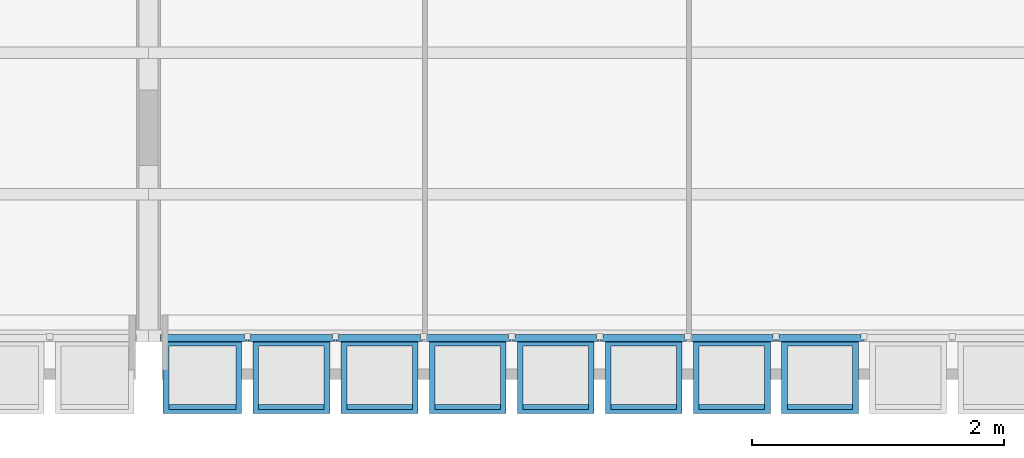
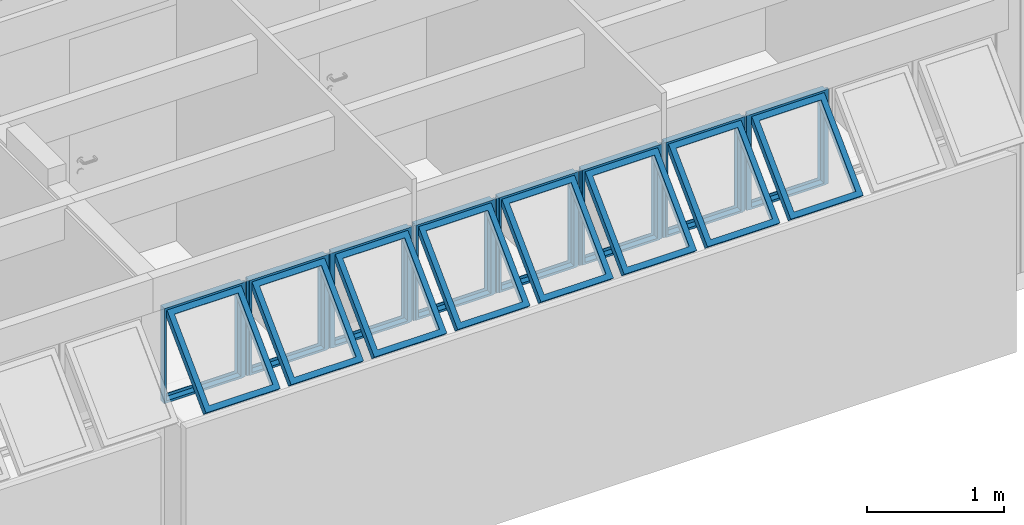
# One storey, part 27 of 37: 8 building element parts, 9 elements without a shape of their own.
"""IFC2X3 building model written with IfcOpenShell, lengths in millimetres."""

from ifc_helpers import new_model, entity, si_unit, converted_unit, derived_unit, money_unit, direction, frame, origin_with_axes, place, context, subcontext, project, spatial, faceted_brep, source, transform, mapped, material, type_object, element, aggregate, save


model = new_model("IFC2X3")

# Units and contexts
model_context = context("Model", 3, precision=0.01, world=origin_with_axes(), true_north=direction((0.0, 1.0)))
body_context = subcontext(model_context, "Body", "Model", "MODEL_VIEW")
ifc_project = project(units=[si_unit("LENGTHUNIT", "METRE", prefix="MILLI"), si_unit("AREAUNIT", "SQUARE_METRE"), si_unit("VOLUMEUNIT", "CUBIC_METRE"), converted_unit("PLANEANGLEUNIT", "DEGREE", entity("IfcPlaneAngleMeasure", 0.0174532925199), si_unit("PLANEANGLEUNIT", "RADIAN"), dimensions=[0, 0, 0, 0, 0, 0, 0]), money_unit("USD"), converted_unit("TIMEUNIT", "Year", entity("IfcTimeMeasure", 31556926.0), si_unit("TIMEUNIT", "SECOND"), dimensions=[0, 0, 1, 0, 0, 0, 0]), si_unit("MASSUNIT", "GRAM", prefix="KILO"), si_unit("THERMODYNAMICTEMPERATUREUNIT", "DEGREE_CELSIUS"), si_unit("LUMINOUSINTENSITYUNIT", "LUMEN"), si_unit("ENERGYUNIT", "JOULE", prefix="MEGA"), derived_unit("THERMALCONDUCTANCEUNIT", [(si_unit("POWERUNIT", "WATT"), 1), (si_unit("LENGTHUNIT", "METRE"), -1), (si_unit("THERMODYNAMICTEMPERATUREUNIT", "KELVIN"), -1)]), derived_unit("SPECIFICHEATCAPACITYUNIT", [(si_unit("ENERGYUNIT", "JOULE"), 1), (si_unit("MASSUNIT", "GRAM", prefix="KILO"), -1), (si_unit("THERMODYNAMICTEMPERATUREUNIT", "KELVIN"), -1)]), derived_unit("MASSDENSITYUNIT", [(si_unit("MASSUNIT", "GRAM", prefix="KILO"), 1), (si_unit("VOLUMEUNIT", "CUBIC_METRE"), -1)])], contexts=[model_context])

# Site, building, storey
site_placement = place(None, origin_with_axes())
site = spatial("IfcSite", under=ifc_project, at=site_placement, Name="Local", CompositionType="ELEMENT")
building_placement = place(site_placement, origin_with_axes())
building = spatial("IfcBuilding", under=site, at=building_placement, Name="Construção", CompositionType="ELEMENT")
storey_placement = place(building_placement, origin_with_axes())
storey = spatial("IfcBuildingStorey", under=building, at=storey_placement, Name="Primeiro Pavimento", CompositionType="ELEMENT", Elevation=0.0)

# Window, plates, building element parts
window_style = type_object("IfcWindowStyle", Name="Tipo de Parede Cortina", ConstructionType="NOTDEFINED", OperationType="NOTDEFINED", ParameterTakesPrecedence=False, Sizeable=False)
window_placement = place(storey_placement, frame((8520.0, 315.020977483, 1355.02054151), z_axis=(0.0, 0.0, 1.0), x_axis=(1.0, 0.0, 0.0)))
window = element("IfcWindow", 1, at=window_placement, inside=storey, type_object=window_style, Name="APTO2-JANELA-001")
plate_type_1 = type_object("IfcPlateType", Name="Painel Principal 690 x 845 x 20", PredefinedType="CURTAIN_PANEL")
plate_1_placement = place(window_placement, frame((0.0, 0.0, 422.499945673), z_axis=(0.0, 0.0, 1.0), x_axis=(1.0, 0.0, 0.0)))
plate_1 = element("IfcPlate", 2, at=plate_1_placement, type_object=plate_type_1, Name="APTO2-Painel-Prin-030")
ifc_material = material(Name="Alumínio")
shared_shape_1 = source(origin_with_axes(), body_context, "Body", "Brep", [
    faceted_brep([(-25.0000036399, 0.0, -40.0), (-25.0000036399, 0.0, -35.0), (-674.999997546, 0.0, -35.0), (-674.999997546, 0.0, -40.0), (-70.0000036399, 45.0, -40.0), (-70.0000036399, 45.0, -35.0), (-629.999997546, 45.0, -35.0), (-629.999997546, 45.0, -40.0)], [[[0, 1, 2, 3]], [[4, 5, 1, 0]], [[1, 5, 6, 2]], [[3, 2, 6, 7]], [[0, 3, 7, 4]], [[7, 6, 5, 4]]]),
    faceted_brep([(-674.999997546, 0.0, -40.0), (-674.999997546, 0.0, -35.0), (-674.999997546, 844.999891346, -35.0), (-674.999997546, 844.999891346, -40.0), (-629.999997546, 45.0, -40.0), (-629.999997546, 45.0, -35.0), (-629.999997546, 799.999891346, -35.0), (-629.999997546, 799.999891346, -40.0)], [[[0, 1, 2, 3]], [[4, 5, 1, 0]], [[1, 5, 6, 2]], [[3, 2, 6, 7]], [[0, 3, 7, 4]], [[7, 6, 5, 4]]]),
    faceted_brep([(-25.0000036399, 844.999891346, -40.0), (-25.0000036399, 844.999891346, -35.0), (-70.0000036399, 799.999891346, -35.0), (-70.0000036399, 799.999891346, -40.0), (-674.999997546, 844.999891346, -40.0), (-674.999997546, 844.999891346, -35.0), (-629.999997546, 799.999891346, -35.0), (-629.999997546, 799.999891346, -40.0)], [[[0, 1, 2, 3]], [[4, 5, 1, 0]], [[1, 5, 6, 2]], [[3, 2, 6, 7]], [[0, 3, 7, 4]], [[7, 6, 5, 4]]]),
    faceted_brep([(-25.0000036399, 0.0, -40.0), (-25.0000036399, 0.0, -35.0), (-70.0000036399, 45.0, -35.0), (-70.0000036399, 45.0, -40.0), (-25.0000036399, 844.999891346, -40.0), (-25.0000036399, 844.999891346, -35.0), (-70.0000036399, 799.999891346, -35.0), (-70.0000036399, 799.999891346, -40.0)], [[[0, 1, 2, 3]], [[4, 5, 1, 0]], [[1, 5, 6, 2]], [[3, 2, 6, 7]], [[0, 3, 7, 4]], [[7, 6, 5, 4]]]),
    faceted_brep([(-25.0000036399, 0.0, -35.0), (-25.0000036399, 0.0, 15.0), (-674.999997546, 0.0, 15.0), (-674.999997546, 0.0, -35.0), (-45.0000036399, 20.0, -35.0), (-45.0000036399, 20.0, 15.0), (-654.999997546, 20.0, 15.0), (-654.999997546, 20.0, -35.0)], [[[0, 1, 2, 3]], [[4, 5, 1, 0]], [[1, 5, 6, 2]], [[3, 2, 6, 7]], [[0, 3, 7, 4]], [[7, 6, 5, 4]]]),
    faceted_brep([(-674.999997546, 0.0, -35.0), (-674.999997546, 0.0, 15.0), (-674.999997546, 844.999891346, 15.0), (-674.999997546, 844.999891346, -35.0), (-654.999997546, 20.0, -35.0), (-654.999997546, 20.0, 15.0), (-654.999997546, 824.999891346, 15.0), (-654.999997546, 824.999891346, -35.0)], [[[0, 1, 2, 3]], [[4, 5, 1, 0]], [[1, 5, 6, 2]], [[3, 2, 6, 7]], [[0, 3, 7, 4]], [[7, 6, 5, 4]]]),
    faceted_brep([(-25.0000036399, 844.999891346, -35.0), (-25.0000036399, 844.999891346, 15.0), (-45.0000036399, 824.999891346, 15.0), (-45.0000036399, 824.999891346, -35.0), (-674.999997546, 844.999891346, -35.0), (-674.999997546, 844.999891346, 15.0), (-654.999997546, 824.999891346, 15.0), (-654.999997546, 824.999891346, -35.0)], [[[0, 1, 2, 3]], [[4, 5, 1, 0]], [[1, 5, 6, 2]], [[3, 2, 6, 7]], [[0, 3, 7, 4]], [[7, 6, 5, 4]]]),
    faceted_brep([(-25.0000036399, 0.0, -35.0), (-25.0000036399, 0.0, 15.0), (-45.0000036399, 20.0, 15.0), (-45.0000036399, 20.0, -35.0), (-25.0000036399, 844.999891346, -35.0), (-25.0000036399, 844.999891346, 15.0), (-45.0000036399, 824.999891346, 15.0), (-45.0000036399, 824.999891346, -35.0)], [[[0, 1, 2, 3]], [[4, 5, 1, 0]], [[1, 5, 6, 2]], [[3, 2, 6, 7]], [[0, 3, 7, 4]], [[7, 6, 5, 4]]]),
    faceted_brep([(-694.999995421, 0.0, -10.0), (-694.999995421, 0.0, 10.0), (-694.999995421, 844.999891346, 10.0), (-694.999995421, 844.999891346, -10.0), (-674.999997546, 0.0, -10.0), (-674.999997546, 0.0, 10.0), (-674.999997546, 844.999891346, 10.0), (-674.999997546, 844.999891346, -10.0)], [[[0, 1, 2, 3]], [[4, 5, 1, 0]], [[1, 5, 6, 2]], [[3, 2, 6, 7]], [[0, 3, 7, 4]], [[7, 6, 5, 4]]]),
    faceted_brep([(-5.00000576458, 844.999891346, -10.0), (-5.00000576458, 844.999891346, 10.0), (-5.00000576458, 0.0, 10.0), (-5.00000576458, 0.0, -10.0), (-25.0000036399, 844.999891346, -10.0), (-25.0000036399, 844.999891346, 10.0), (-25.0000036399, 0.0, 10.0), (-25.0000036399, 0.0, -10.0)], [[[0, 1, 2, 3]], [[4, 5, 1, 0]], [[1, 5, 6, 2]], [[3, 2, 6, 7]], [[0, 3, 7, 4]], [[7, 6, 5, 4]]]),
    faceted_brep([(-90.0000036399, 252.243475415, 517.045737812), (-90.0000036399, 291.13434838, 555.936610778), (-90.0000036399, 796.715620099, 50.3553390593), (-90.0000036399, 757.824747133, 11.4644660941), (-45.0000036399, 220.423670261, 548.865542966), (-45.0000036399, 259.314543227, 587.756415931), (-45.0000036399, 828.535425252, 18.5355339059), (-45.0000036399, 789.644552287, -20.3553390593)], [[[0, 1, 2, 3]], [[4, 5, 1, 0]], [[1, 5, 6, 2]], [[3, 2, 6, 7]], [[0, 3, 7, 4]], [[7, 6, 5, 4]]]),
    faceted_brep([(-654.999997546, 220.423670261, 548.865542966), (-654.999997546, 259.314543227, 587.756415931), (-654.999997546, 828.535425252, 18.5355339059), (-654.999997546, 789.644552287, -20.3553390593), (-609.999997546, 252.243475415, 517.045737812), (-609.999997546, 291.13434838, 555.936610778), (-609.999997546, 796.715620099, 50.3553390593), (-609.999997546, 757.824747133, 11.4644660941)], [[[0, 1, 2, 3]], [[4, 5, 1, 0]], [[1, 5, 6, 2]], [[3, 2, 6, 7]], [[0, 3, 7, 4]], [[7, 6, 5, 4]]]),
    faceted_brep([(-654.999997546, 220.423670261, 548.865542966), (-654.999997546, 259.314543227, 587.756415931), (-609.999997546, 291.13434838, 555.936610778), (-609.999997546, 252.243475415, 517.045737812), (-45.0000036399, 220.423670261, 548.865542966), (-45.0000036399, 259.314543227, 587.756415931), (-90.0000036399, 291.13434838, 555.936610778), (-90.0000036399, 252.243475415, 517.045737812)], [[[0, 1, 2, 3]], [[4, 5, 1, 0]], [[1, 5, 6, 2]], [[3, 2, 6, 7]], [[0, 3, 7, 4]], [[7, 6, 5, 4]]]),
    faceted_brep([(-45.0000036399, 789.644552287, -20.3553390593), (-45.0000036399, 828.535425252, 18.5355339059), (-90.0000036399, 796.715620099, 50.3553390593), (-90.0000036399, 757.824747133, 11.4644660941), (-654.999997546, 789.644552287, -20.3553390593), (-654.999997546, 828.535425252, 18.5355339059), (-609.999997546, 796.715620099, 50.3553390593), (-609.999997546, 757.824747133, 11.4644660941)], [[[0, 1, 2, 3]], [[4, 5, 1, 0]], [[1, 5, 6, 2]], [[3, 2, 6, 7]], [[0, 3, 7, 4]], [[7, 6, 5, 4]]]),
])
building_element_part_1_placement = place(plate_1_placement, origin_with_axes())
building_element_part_1 = element("IfcBuildingElementPart", 3, at=building_element_part_1_placement, material=ifc_material, Name="Alumínio", context=body_context, shape_type="MappedRepresentation", body=[
    mapped(shared_shape_1, transform((350.0, 0.0, -422.499945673), x_axis=(1.0, 0.0, 0.0), y_axis=(0.0, 0.0, 1.0), z_axis=(0.0, -1.0, 0.0))),
])
aggregate(plate_1, [building_element_part_1])
plate_2_placement = place(window_placement, frame((700.0, 0.0, 422.499945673), z_axis=(0.0, 0.0, 1.0), x_axis=(1.0, 0.0, 0.0)))
plate_2 = element("IfcPlate", 4, at=plate_2_placement, type_object=plate_type_1, Name="APTO2-Painel-Prin-020")
building_element_part_2_placement = place(plate_2_placement, origin_with_axes())
building_element_part_2 = element("IfcBuildingElementPart", 5, at=building_element_part_2_placement, material=ifc_material, Name="Alumínio", context=body_context, shape_type="MappedRepresentation", body=[
    mapped(shared_shape_1, transform((350.0, 0.0, -422.499945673), x_axis=(1.0, 0.0, 0.0), y_axis=(0.0, 0.0, 1.0), z_axis=(0.0, -1.0, 0.0))),
])
aggregate(plate_2, [building_element_part_2])
plate_3_placement = place(window_placement, frame((1400.0, 0.0, 422.499945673), z_axis=(0.0, 0.0, 1.0), x_axis=(1.0, 0.0, 0.0)))
plate_3 = element("IfcPlate", 6, at=plate_3_placement, type_object=plate_type_1, Name="APTO2-Painel-Prin-029")
building_element_part_3_placement = place(plate_3_placement, origin_with_axes())
building_element_part_3 = element("IfcBuildingElementPart", 7, at=building_element_part_3_placement, material=ifc_material, Name="Alumínio", context=body_context, shape_type="MappedRepresentation", body=[
    mapped(shared_shape_1, transform((350.0, 0.0, -422.499945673), x_axis=(1.0, 0.0, 0.0), y_axis=(0.0, 0.0, 1.0), z_axis=(0.0, -1.0, 0.0))),
])
aggregate(plate_3, [building_element_part_3])
plate_4_placement = place(window_placement, frame((3500.0, 0.0, 422.499945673), z_axis=(0.0, 0.0, 1.0), x_axis=(1.0, 0.0, 0.0)))
plate_4 = element("IfcPlate", 8, at=plate_4_placement, type_object=plate_type_1, Name="APTO2-Painel-Prin-013")
building_element_part_4_placement = place(plate_4_placement, origin_with_axes())
building_element_part_4 = element("IfcBuildingElementPart", 9, at=building_element_part_4_placement, material=ifc_material, Name="Alumínio", context=body_context, shape_type="MappedRepresentation", body=[
    mapped(shared_shape_1, transform((350.0, 0.0, -422.499945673), x_axis=(1.0, 0.0, 0.0), y_axis=(0.0, 0.0, 1.0), z_axis=(0.0, -1.0, 0.0))),
])
aggregate(plate_4, [building_element_part_4])
plate_5_placement = place(window_placement, frame((2100.0, 0.0, 422.499945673), z_axis=(0.0, 0.0, 1.0), x_axis=(1.0, 0.0, 0.0)))
plate_5 = element("IfcPlate", 10, at=plate_5_placement, type_object=plate_type_1, Name="APTO2-Painel-Prin-025")
shared_shape_2 = source(origin_with_axes(), body_context, "Body", "Brep", [
    faceted_brep([(-25.0000036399, 0.0, -40.0), (-25.0000036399, 0.0, -35.0), (-674.999997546, 0.0, -35.0), (-674.999997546, 0.0, -40.0), (-70.0000036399, 45.0, -40.0), (-70.0000036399, 45.0, -35.0), (-629.999997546, 45.0, -35.0), (-629.999997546, 45.0, -40.0)], [[[0, 1, 2, 3]], [[4, 5, 1, 0]], [[1, 5, 6, 2]], [[3, 2, 6, 7]], [[0, 3, 7, 4]], [[7, 6, 5, 4]]]),
    faceted_brep([(-674.999997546, 0.0, -40.0), (-674.999997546, 0.0, -35.0), (-674.999997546, 844.999891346, -35.0), (-674.999997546, 844.999891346, -40.0), (-629.999997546, 45.0, -40.0), (-629.999997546, 45.0, -35.0), (-629.999997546, 799.999891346, -35.0), (-629.999997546, 799.999891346, -40.0)], [[[0, 1, 2, 3]], [[4, 5, 1, 0]], [[1, 5, 6, 2]], [[3, 2, 6, 7]], [[0, 3, 7, 4]], [[7, 6, 5, 4]]]),
    faceted_brep([(-25.0000036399, 844.999891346, -40.0), (-25.0000036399, 844.999891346, -35.0), (-70.0000036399, 799.999891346, -35.0), (-70.0000036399, 799.999891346, -40.0), (-674.999997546, 844.999891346, -40.0), (-674.999997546, 844.999891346, -35.0), (-629.999997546, 799.999891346, -35.0), (-629.999997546, 799.999891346, -40.0)], [[[0, 1, 2, 3]], [[4, 5, 1, 0]], [[1, 5, 6, 2]], [[3, 2, 6, 7]], [[0, 3, 7, 4]], [[7, 6, 5, 4]]]),
    faceted_brep([(-25.0000036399, 0.0, -40.0), (-25.0000036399, 0.0, -35.0), (-70.0000036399, 45.0, -35.0), (-70.0000036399, 45.0, -40.0), (-25.0000036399, 844.999891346, -40.0), (-25.0000036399, 844.999891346, -35.0), (-70.0000036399, 799.999891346, -35.0), (-70.0000036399, 799.999891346, -40.0)], [[[0, 1, 2, 3]], [[4, 5, 1, 0]], [[1, 5, 6, 2]], [[3, 2, 6, 7]], [[0, 3, 7, 4]], [[7, 6, 5, 4]]]),
    faceted_brep([(-25.0000036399, 0.0, -35.0), (-25.0000036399, 0.0, 15.0), (-674.999997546, 0.0, 15.0), (-674.999997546, 0.0, -35.0), (-45.0000036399, 20.0, -35.0), (-45.0000036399, 20.0, 15.0), (-654.999997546, 20.0, 15.0), (-654.999997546, 20.0, -35.0)], [[[0, 1, 2, 3]], [[4, 5, 1, 0]], [[1, 5, 6, 2]], [[3, 2, 6, 7]], [[0, 3, 7, 4]], [[7, 6, 5, 4]]]),
    faceted_brep([(-674.999997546, 0.0, -35.0), (-674.999997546, 0.0, 15.0), (-674.999997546, 844.999891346, 15.0), (-674.999997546, 844.999891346, -35.0), (-654.999997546, 20.0, -35.0), (-654.999997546, 20.0, 15.0), (-654.999997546, 824.999891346, 15.0), (-654.999997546, 824.999891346, -35.0)], [[[0, 1, 2, 3]], [[4, 5, 1, 0]], [[1, 5, 6, 2]], [[3, 2, 6, 7]], [[0, 3, 7, 4]], [[7, 6, 5, 4]]]),
    faceted_brep([(-25.0000036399, 844.999891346, -35.0), (-25.0000036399, 844.999891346, 15.0), (-45.0000036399, 824.999891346, 15.0), (-45.0000036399, 824.999891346, -35.0), (-674.999997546, 844.999891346, -35.0), (-674.999997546, 844.999891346, 15.0), (-654.999997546, 824.999891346, 15.0), (-654.999997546, 824.999891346, -35.0)], [[[0, 1, 2, 3]], [[4, 5, 1, 0]], [[1, 5, 6, 2]], [[3, 2, 6, 7]], [[0, 3, 7, 4]], [[7, 6, 5, 4]]]),
    faceted_brep([(-25.0000036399, 0.0, -35.0), (-25.0000036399, 0.0, 15.0), (-45.0000036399, 20.0, 15.0), (-45.0000036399, 20.0, -35.0), (-25.0000036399, 844.999891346, -35.0), (-25.0000036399, 844.999891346, 15.0), (-45.0000036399, 824.999891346, 15.0), (-45.0000036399, 824.999891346, -35.0)], [[[0, 1, 2, 3]], [[4, 5, 1, 0]], [[1, 5, 6, 2]], [[3, 2, 6, 7]], [[0, 3, 7, 4]], [[7, 6, 5, 4]]]),
    faceted_brep([(-694.999995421, 0.0, -10.0), (-694.999995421, 0.0, 10.0), (-694.999995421, 844.999891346, 10.0), (-694.999995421, 844.999891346, -10.0), (-674.999997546, 0.0, -10.0), (-674.999997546, 0.0, 10.0), (-674.999997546, 844.999891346, 10.0), (-674.999997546, 844.999891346, -10.0)], [[[0, 1, 2, 3]], [[4, 5, 1, 0]], [[1, 5, 6, 2]], [[3, 2, 6, 7]], [[0, 3, 7, 4]], [[7, 6, 5, 4]]]),
    faceted_brep([(-5.00000576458, 844.999891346, -10.0), (-5.00000576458, 844.999891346, 10.0), (-5.00000576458, 0.0, 10.0), (-5.00000576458, 0.0, -10.0), (-25.0000036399, 844.999891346, -10.0), (-25.0000036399, 844.999891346, 10.0), (-25.0000036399, 0.0, 10.0), (-25.0000036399, 0.0, -10.0)], [[[0, 1, 2, 3]], [[4, 5, 1, 0]], [[1, 5, 6, 2]], [[3, 2, 6, 7]], [[0, 3, 7, 4]], [[7, 6, 5, 4]]]),
    faceted_brep([(-90.0000036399, 252.243475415, 517.045737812), (-90.0000036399, 291.13434838, 555.936610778), (-90.0000036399, 796.715620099, 50.3553390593), (-90.0000036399, 757.824747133, 11.4644660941), (-45.0000036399, 220.423670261, 548.865542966), (-45.0000036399, 259.314543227, 587.756415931), (-45.0000036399, 828.535425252, 18.5355339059), (-45.0000036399, 789.644552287, -20.3553390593)], [[[0, 1, 2, 3]], [[4, 5, 1, 0]], [[1, 5, 6, 2]], [[3, 2, 6, 7]], [[0, 3, 7, 4]], [[7, 6, 5, 4]]]),
    faceted_brep([(-654.999997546, 220.423670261, 548.865542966), (-654.999997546, 259.314543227, 587.756415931), (-654.999997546, 828.535425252, 18.5355339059), (-654.999997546, 789.644552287, -20.3553390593), (-609.999997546, 252.243475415, 517.045737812), (-609.999997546, 291.13434838, 555.936610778), (-609.999997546, 796.715620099, 50.3553390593), (-609.999997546, 757.824747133, 11.4644660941)], [[[0, 1, 2, 3]], [[4, 5, 1, 0]], [[1, 5, 6, 2]], [[3, 2, 6, 7]], [[0, 3, 7, 4]], [[7, 6, 5, 4]]]),
    faceted_brep([(-654.999997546, 220.423670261, 548.865542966), (-654.999997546, 259.314543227, 587.756415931), (-609.999997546, 291.13434838, 555.936610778), (-609.999997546, 252.243475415, 517.045737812), (-45.0000036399, 220.423670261, 548.865542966), (-45.0000036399, 259.314543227, 587.756415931), (-90.0000036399, 291.13434838, 555.936610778), (-90.0000036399, 252.243475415, 517.045737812)], [[[0, 1, 2, 3]], [[4, 5, 1, 0]], [[1, 5, 6, 2]], [[3, 2, 6, 7]], [[0, 3, 7, 4]], [[7, 6, 5, 4]]]),
    faceted_brep([(-45.0000036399, 789.644552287, -20.3553390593), (-45.0000036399, 828.535425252, 18.5355339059), (-90.0000036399, 796.715620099, 50.3553390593), (-90.0000036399, 757.824747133, 11.4644660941), (-654.999997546, 789.644552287, -20.3553390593), (-654.999997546, 828.535425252, 18.5355339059), (-609.999997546, 796.715620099, 50.3553390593), (-609.999997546, 757.824747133, 11.4644660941)], [[[0, 1, 2, 3]], [[4, 5, 1, 0]], [[1, 5, 6, 2]], [[3, 2, 6, 7]], [[0, 3, 7, 4]], [[7, 6, 5, 4]]]),
])
building_element_part_5_placement = place(plate_5_placement, origin_with_axes())
building_element_part_5 = element("IfcBuildingElementPart", 11, at=building_element_part_5_placement, material=ifc_material, Name="Alumínio", context=body_context, shape_type="MappedRepresentation", body=[
    mapped(shared_shape_2, transform((350.0, 0.0, -422.499945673), x_axis=(1.0, 0.0, 0.0), y_axis=(0.0, 0.0, 1.0), z_axis=(0.0, -1.0, 0.0))),
])
aggregate(plate_5, [building_element_part_5])
plate_6_placement = place(window_placement, frame((2800.0, 0.0, 422.499945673), z_axis=(0.0, 0.0, 1.0), x_axis=(1.0, 0.0, 0.0)))
plate_6 = element("IfcPlate", 12, at=plate_6_placement, type_object=plate_type_1, Name="APTO2-Painel-Prin-013")
shared_shape_3 = source(origin_with_axes(), body_context, "Body", "Brep", [
    faceted_brep([(-25.0000036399, 0.0, -40.0), (-25.0000036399, 0.0, -35.0), (-674.999997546, 0.0, -35.0), (-674.999997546, 0.0, -40.0), (-70.0000036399, 45.0, -40.0), (-70.0000036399, 45.0, -35.0), (-629.999997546, 45.0, -35.0), (-629.999997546, 45.0, -40.0)], [[[0, 1, 2, 3]], [[4, 5, 1, 0]], [[1, 5, 6, 2]], [[3, 2, 6, 7]], [[0, 3, 7, 4]], [[7, 6, 5, 4]]]),
    faceted_brep([(-674.999997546, 0.0, -40.0), (-674.999997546, 0.0, -35.0), (-674.999997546, 844.999891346, -35.0), (-674.999997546, 844.999891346, -40.0), (-629.999997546, 45.0, -40.0), (-629.999997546, 45.0, -35.0), (-629.999997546, 799.999891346, -35.0), (-629.999997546, 799.999891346, -40.0)], [[[0, 1, 2, 3]], [[4, 5, 1, 0]], [[1, 5, 6, 2]], [[3, 2, 6, 7]], [[0, 3, 7, 4]], [[7, 6, 5, 4]]]),
    faceted_brep([(-25.0000036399, 844.999891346, -40.0), (-25.0000036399, 844.999891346, -35.0), (-70.0000036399, 799.999891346, -35.0), (-70.0000036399, 799.999891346, -40.0), (-674.999997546, 844.999891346, -40.0), (-674.999997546, 844.999891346, -35.0), (-629.999997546, 799.999891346, -35.0), (-629.999997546, 799.999891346, -40.0)], [[[0, 1, 2, 3]], [[4, 5, 1, 0]], [[1, 5, 6, 2]], [[3, 2, 6, 7]], [[0, 3, 7, 4]], [[7, 6, 5, 4]]]),
    faceted_brep([(-25.0000036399, 0.0, -40.0), (-25.0000036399, 0.0, -35.0), (-70.0000036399, 45.0, -35.0), (-70.0000036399, 45.0, -40.0), (-25.0000036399, 844.999891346, -40.0), (-25.0000036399, 844.999891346, -35.0), (-70.0000036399, 799.999891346, -35.0), (-70.0000036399, 799.999891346, -40.0)], [[[0, 1, 2, 3]], [[4, 5, 1, 0]], [[1, 5, 6, 2]], [[3, 2, 6, 7]], [[0, 3, 7, 4]], [[7, 6, 5, 4]]]),
    faceted_brep([(-25.0000036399, 0.0, -35.0), (-25.0000036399, 0.0, 15.0), (-674.999997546, 0.0, 15.0), (-674.999997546, 0.0, -35.0), (-45.0000036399, 20.0, -35.0), (-45.0000036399, 20.0, 15.0), (-654.999997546, 20.0, 15.0), (-654.999997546, 20.0, -35.0)], [[[0, 1, 2, 3]], [[4, 5, 1, 0]], [[1, 5, 6, 2]], [[3, 2, 6, 7]], [[0, 3, 7, 4]], [[7, 6, 5, 4]]]),
    faceted_brep([(-674.999997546, 0.0, -35.0), (-674.999997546, 0.0, 15.0), (-674.999997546, 844.999891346, 15.0), (-674.999997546, 844.999891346, -35.0), (-654.999997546, 20.0, -35.0), (-654.999997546, 20.0, 15.0), (-654.999997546, 824.999891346, 15.0), (-654.999997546, 824.999891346, -35.0)], [[[0, 1, 2, 3]], [[4, 5, 1, 0]], [[1, 5, 6, 2]], [[3, 2, 6, 7]], [[0, 3, 7, 4]], [[7, 6, 5, 4]]]),
    faceted_brep([(-25.0000036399, 844.999891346, -35.0), (-25.0000036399, 844.999891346, 15.0), (-45.0000036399, 824.999891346, 15.0), (-45.0000036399, 824.999891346, -35.0), (-674.999997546, 844.999891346, -35.0), (-674.999997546, 844.999891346, 15.0), (-654.999997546, 824.999891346, 15.0), (-654.999997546, 824.999891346, -35.0)], [[[0, 1, 2, 3]], [[4, 5, 1, 0]], [[1, 5, 6, 2]], [[3, 2, 6, 7]], [[0, 3, 7, 4]], [[7, 6, 5, 4]]]),
    faceted_brep([(-25.0000036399, 0.0, -35.0), (-25.0000036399, 0.0, 15.0), (-45.0000036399, 20.0, 15.0), (-45.0000036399, 20.0, -35.0), (-25.0000036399, 844.999891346, -35.0), (-25.0000036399, 844.999891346, 15.0), (-45.0000036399, 824.999891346, 15.0), (-45.0000036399, 824.999891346, -35.0)], [[[0, 1, 2, 3]], [[4, 5, 1, 0]], [[1, 5, 6, 2]], [[3, 2, 6, 7]], [[0, 3, 7, 4]], [[7, 6, 5, 4]]]),
    faceted_brep([(-694.999995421, 0.0, -10.0), (-694.999995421, 0.0, 10.0), (-694.999995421, 844.999891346, 10.0), (-694.999995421, 844.999891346, -10.0), (-674.999997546, 0.0, -10.0), (-674.999997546, 0.0, 10.0), (-674.999997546, 844.999891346, 10.0), (-674.999997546, 844.999891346, -10.0)], [[[0, 1, 2, 3]], [[4, 5, 1, 0]], [[1, 5, 6, 2]], [[3, 2, 6, 7]], [[0, 3, 7, 4]], [[7, 6, 5, 4]]]),
    faceted_brep([(-5.00000576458, 844.999891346, -10.0), (-5.00000576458, 844.999891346, 10.0), (-5.00000576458, 0.0, 10.0), (-5.00000576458, 0.0, -10.0), (-25.0000036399, 844.999891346, -10.0), (-25.0000036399, 844.999891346, 10.0), (-25.0000036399, 0.0, 10.0), (-25.0000036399, 0.0, -10.0)], [[[0, 1, 2, 3]], [[4, 5, 1, 0]], [[1, 5, 6, 2]], [[3, 2, 6, 7]], [[0, 3, 7, 4]], [[7, 6, 5, 4]]]),
    faceted_brep([(-90.0000036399, 252.243475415, 517.045737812), (-90.0000036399, 291.13434838, 555.936610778), (-90.0000036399, 796.715620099, 50.3553390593), (-90.0000036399, 757.824747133, 11.4644660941), (-45.0000036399, 220.423670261, 548.865542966), (-45.0000036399, 259.314543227, 587.756415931), (-45.0000036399, 828.535425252, 18.5355339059), (-45.0000036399, 789.644552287, -20.3553390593)], [[[0, 1, 2, 3]], [[4, 5, 1, 0]], [[1, 5, 6, 2]], [[3, 2, 6, 7]], [[0, 3, 7, 4]], [[7, 6, 5, 4]]]),
    faceted_brep([(-654.999997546, 220.423670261, 548.865542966), (-654.999997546, 259.314543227, 587.756415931), (-654.999997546, 828.535425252, 18.5355339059), (-654.999997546, 789.644552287, -20.3553390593), (-609.999997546, 252.243475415, 517.045737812), (-609.999997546, 291.13434838, 555.936610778), (-609.999997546, 796.715620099, 50.3553390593), (-609.999997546, 757.824747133, 11.4644660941)], [[[0, 1, 2, 3]], [[4, 5, 1, 0]], [[1, 5, 6, 2]], [[3, 2, 6, 7]], [[0, 3, 7, 4]], [[7, 6, 5, 4]]]),
    faceted_brep([(-654.999997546, 220.423670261, 548.865542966), (-654.999997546, 259.314543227, 587.756415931), (-609.999997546, 291.13434838, 555.936610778), (-609.999997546, 252.243475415, 517.045737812), (-45.0000036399, 220.423670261, 548.865542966), (-45.0000036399, 259.314543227, 587.756415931), (-90.0000036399, 291.13434838, 555.936610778), (-90.0000036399, 252.243475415, 517.045737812)], [[[0, 1, 2, 3]], [[4, 5, 1, 0]], [[1, 5, 6, 2]], [[3, 2, 6, 7]], [[0, 3, 7, 4]], [[7, 6, 5, 4]]]),
    faceted_brep([(-45.0000036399, 789.644552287, -20.3553390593), (-45.0000036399, 828.535425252, 18.5355339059), (-90.0000036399, 796.715620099, 50.3553390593), (-90.0000036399, 757.824747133, 11.4644660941), (-654.999997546, 789.644552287, -20.3553390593), (-654.999997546, 828.535425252, 18.5355339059), (-609.999997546, 796.715620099, 50.3553390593), (-609.999997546, 757.824747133, 11.4644660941)], [[[0, 1, 2, 3]], [[4, 5, 1, 0]], [[1, 5, 6, 2]], [[3, 2, 6, 7]], [[0, 3, 7, 4]], [[7, 6, 5, 4]]]),
])
building_element_part_6_placement = place(plate_6_placement, origin_with_axes())
building_element_part_6 = element("IfcBuildingElementPart", 13, at=building_element_part_6_placement, material=ifc_material, Name="Alumínio", context=body_context, shape_type="MappedRepresentation", body=[
    mapped(shared_shape_3, transform((350.0, 0.0, -422.499945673), x_axis=(1.0, 0.0, 0.0), y_axis=(0.0, 0.0, 1.0), z_axis=(0.0, -1.0, 0.0))),
])
aggregate(plate_6, [building_element_part_6])
plate_7_placement = place(window_placement, frame((4200.0, 0.0, 422.499945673), z_axis=(0.0, 0.0, 1.0), x_axis=(1.0, 0.0, 0.0)))
plate_7 = element("IfcPlate", 14, at=plate_7_placement, type_object=plate_type_1, Name="APTO2-Painel-Prin-013")
building_element_part_7_placement = place(plate_7_placement, origin_with_axes())
building_element_part_7 = element("IfcBuildingElementPart", 15, at=building_element_part_7_placement, material=ifc_material, Name="Alumínio", context=body_context, shape_type="MappedRepresentation", body=[
    mapped(shared_shape_3, transform((350.0, 0.0, -422.499945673), x_axis=(1.0, 0.0, 0.0), y_axis=(0.0, 0.0, 1.0), z_axis=(0.0, -1.0, 0.0))),
])
aggregate(plate_7, [building_element_part_7])
plate_type_2 = type_object("IfcPlateType", Name="Painel Principal 685 x 845 x 20", PredefinedType="CURTAIN_PANEL")
plate_8_placement = place(window_placement, frame((-695.000037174, 0.0, 422.499953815), z_axis=(0.0, 0.0, 1.0), x_axis=(1.0, 0.0, 0.0)))
plate_8 = element("IfcPlate", 16, at=plate_8_placement, type_object=plate_type_2, Name="APTO2-Painel-Prin-031")
aggregate(window, [plate_1, plate_8, plate_6, plate_5, plate_2, plate_7, plate_3, plate_4])
shared_shape_4 = source(origin_with_axes(), body_context, "Body", "Brep", [
    faceted_brep([(-25.0000046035, 0.0, -40.0), (-25.0000046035, 0.0, -35.0), (-690.000079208, 0.0, -35.0), (-690.000079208, 0.0, -40.0), (-70.0000046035, 45.0, -40.0), (-70.0000046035, 45.0, -35.0), (-645.000079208, 45.0, -35.0), (-645.000079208, 45.0, -40.0)], [[[0, 1, 2, 3]], [[4, 5, 1, 0]], [[1, 5, 6, 2]], [[3, 2, 6, 7]], [[0, 3, 7, 4]], [[7, 6, 5, 4]]]),
    faceted_brep([(-690.000079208, 0.0, -40.0), (-690.000079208, 0.0, -35.0), (-690.000079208, 844.999923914, -35.0), (-690.000079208, 844.999923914, -40.0), (-645.000079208, 45.0, -40.0), (-645.000079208, 45.0, -35.0), (-645.000079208, 799.999923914, -35.0), (-645.000079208, 799.999923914, -40.0)], [[[0, 1, 2, 3]], [[4, 5, 1, 0]], [[1, 5, 6, 2]], [[3, 2, 6, 7]], [[0, 3, 7, 4]], [[7, 6, 5, 4]]]),
    faceted_brep([(-25.0000046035, 844.999923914, -40.0), (-25.0000046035, 844.999923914, -35.0), (-70.0000046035, 799.999923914, -35.0), (-70.0000046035, 799.999923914, -40.0), (-690.000079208, 844.999923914, -40.0), (-690.000079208, 844.999923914, -35.0), (-645.000079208, 799.999923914, -35.0), (-645.000079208, 799.999923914, -40.0)], [[[0, 1, 2, 3]], [[4, 5, 1, 0]], [[1, 5, 6, 2]], [[3, 2, 6, 7]], [[0, 3, 7, 4]], [[7, 6, 5, 4]]]),
    faceted_brep([(-25.0000046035, 0.0, -40.0), (-25.0000046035, 0.0, -35.0), (-70.0000046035, 45.0, -35.0), (-70.0000046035, 45.0, -40.0), (-25.0000046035, 844.999923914, -40.0), (-25.0000046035, 844.999923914, -35.0), (-70.0000046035, 799.999923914, -35.0), (-70.0000046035, 799.999923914, -40.0)], [[[0, 1, 2, 3]], [[4, 5, 1, 0]], [[1, 5, 6, 2]], [[3, 2, 6, 7]], [[0, 3, 7, 4]], [[7, 6, 5, 4]]]),
    faceted_brep([(-25.0000046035, 0.0, -35.0), (-25.0000046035, 0.0, 15.0), (-690.000079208, 0.0, 15.0), (-690.000079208, 0.0, -35.0), (-45.0000046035, 20.0, -35.0), (-45.0000046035, 20.0, 15.0), (-670.000079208, 20.0, 15.0), (-670.000079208, 20.0, -35.0)], [[[0, 1, 2, 3]], [[4, 5, 1, 0]], [[1, 5, 6, 2]], [[3, 2, 6, 7]], [[0, 3, 7, 4]], [[7, 6, 5, 4]]]),
    faceted_brep([(-690.000079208, 0.0, -35.0), (-690.000079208, 0.0, 15.0), (-690.000079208, 844.999923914, 15.0), (-690.000079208, 844.999923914, -35.0), (-670.000079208, 20.0, -35.0), (-670.000079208, 20.0, 15.0), (-670.000079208, 824.999923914, 15.0), (-670.000079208, 824.999923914, -35.0)], [[[0, 1, 2, 3]], [[4, 5, 1, 0]], [[1, 5, 6, 2]], [[3, 2, 6, 7]], [[0, 3, 7, 4]], [[7, 6, 5, 4]]]),
    faceted_brep([(-25.0000046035, 844.999923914, -35.0), (-25.0000046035, 844.999923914, 15.0), (-45.0000046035, 824.999923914, 15.0), (-45.0000046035, 824.999923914, -35.0), (-690.000079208, 844.999923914, -35.0), (-690.000079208, 844.999923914, 15.0), (-670.000079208, 824.999923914, 15.0), (-670.000079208, 824.999923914, -35.0)], [[[0, 1, 2, 3]], [[4, 5, 1, 0]], [[1, 5, 6, 2]], [[3, 2, 6, 7]], [[0, 3, 7, 4]], [[7, 6, 5, 4]]]),
    faceted_brep([(-25.0000046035, 0.0, -35.0), (-25.0000046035, 0.0, 15.0), (-45.0000046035, 20.0, 15.0), (-45.0000046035, 20.0, -35.0), (-25.0000046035, 844.999923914, -35.0), (-25.0000046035, 844.999923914, 15.0), (-45.0000046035, 824.999923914, 15.0), (-45.0000046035, 824.999923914, -35.0)], [[[0, 1, 2, 3]], [[4, 5, 1, 0]], [[1, 5, 6, 2]], [[3, 2, 6, 7]], [[0, 3, 7, 4]], [[7, 6, 5, 4]]]),
    faceted_brep([(-5.00000595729, 844.999923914, -10.0), (-5.00000595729, 844.999923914, 10.0), (-5.00000595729, 0.0, 10.0), (-5.00000595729, 0.0, -10.0), (-25.0000046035, 844.999923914, -10.0), (-25.0000046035, 844.999923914, 10.0), (-25.0000046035, 0.0, 10.0), (-25.0000046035, 0.0, -10.0)], [[[0, 1, 2, 3]], [[4, 5, 1, 0]], [[1, 5, 6, 2]], [[3, 2, 6, 7]], [[0, 3, 7, 4]], [[7, 6, 5, 4]]]),
    faceted_brep([(-90.0000046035, 252.243484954, 517.045760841), (-90.0000046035, 291.134357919, 555.936633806), (-90.0000046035, 796.715652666, 50.3553390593), (-90.0000046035, 757.824779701, 11.4644660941), (-45.0000046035, 220.4236798, 548.865565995), (-45.0000046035, 259.314552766, 587.75643896), (-45.0000046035, 828.535457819, 18.5355339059), (-45.0000046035, 789.644584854, -20.3553390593)], [[[0, 1, 2, 3]], [[4, 5, 1, 0]], [[1, 5, 6, 2]], [[3, 2, 6, 7]], [[0, 3, 7, 4]], [[7, 6, 5, 4]]]),
    faceted_brep([(-670.000079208, 220.4236798, 548.865565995), (-670.000079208, 259.314552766, 587.75643896), (-670.000079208, 828.535457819, 18.5355339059), (-670.000079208, 789.644584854, -20.3553390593), (-625.000079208, 252.243484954, 517.045760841), (-625.000079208, 291.134357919, 555.936633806), (-625.000079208, 796.715652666, 50.3553390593), (-625.000079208, 757.824779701, 11.4644660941)], [[[0, 1, 2, 3]], [[4, 5, 1, 0]], [[1, 5, 6, 2]], [[3, 2, 6, 7]], [[0, 3, 7, 4]], [[7, 6, 5, 4]]]),
    faceted_brep([(-670.000079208, 220.4236798, 548.865565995), (-670.000079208, 259.314552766, 587.75643896), (-625.000079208, 291.134357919, 555.936633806), (-625.000079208, 252.243484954, 517.045760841), (-45.0000046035, 220.4236798, 548.865565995), (-45.0000046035, 259.314552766, 587.75643896), (-90.0000046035, 291.134357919, 555.936633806), (-90.0000046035, 252.243484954, 517.045760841)], [[[0, 1, 2, 3]], [[4, 5, 1, 0]], [[1, 5, 6, 2]], [[3, 2, 6, 7]], [[0, 3, 7, 4]], [[7, 6, 5, 4]]]),
    faceted_brep([(-45.0000046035, 789.644584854, -20.3553390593), (-45.0000046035, 828.535457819, 18.5355339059), (-90.0000046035, 796.715652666, 50.3553390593), (-90.0000046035, 757.824779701, 11.4644660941), (-670.000079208, 789.644584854, -20.3553390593), (-670.000079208, 828.535457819, 18.5355339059), (-625.000079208, 796.715652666, 50.3553390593), (-625.000079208, 757.824779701, 11.4644660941)], [[[0, 1, 2, 3]], [[4, 5, 1, 0]], [[1, 5, 6, 2]], [[3, 2, 6, 7]], [[0, 3, 7, 4]], [[7, 6, 5, 4]]]),
])
building_element_part_8_placement = place(plate_8_placement, origin_with_axes())
building_element_part_8 = element("IfcBuildingElementPart", 17, at=building_element_part_8_placement, material=ifc_material, Name="Alumínio", context=body_context, shape_type="MappedRepresentation", body=[
    mapped(shared_shape_4, transform((345.000037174, 0.0, -422.499953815), x_axis=(1.0, 0.0, 0.0), y_axis=(0.0, 0.0, 1.0), z_axis=(0.0, -1.0, 0.0))),
])
aggregate(plate_8, [building_element_part_8])

save(model, "model.ifc")
